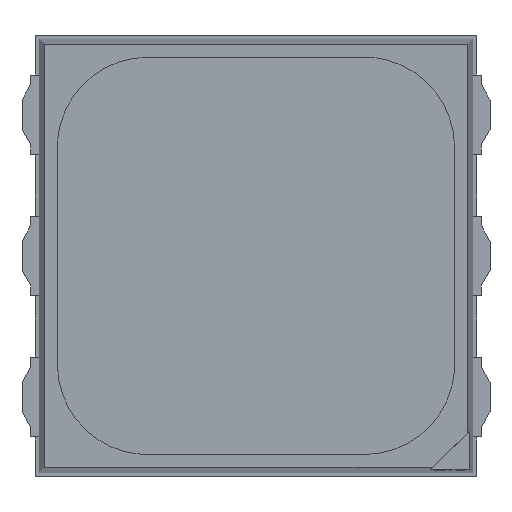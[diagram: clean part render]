
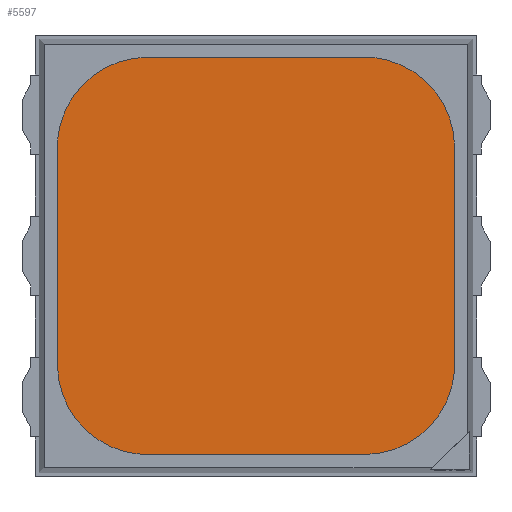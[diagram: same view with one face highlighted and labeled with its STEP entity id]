
A CAD part, top view. The second image highlights one B-rep face of the part: STEP entity #5597.
In plain terms, the highlighted planar face has unit normal (0, 0, 1).
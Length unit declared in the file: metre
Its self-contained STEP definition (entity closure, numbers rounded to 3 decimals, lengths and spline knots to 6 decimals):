
#55=B_SPLINE_CURVE_WITH_KNOTS('',3,(#7738,#7739,#7740,#7741,#7742),
 .UNSPECIFIED.,.F.,.F.,(4,1,4),(0.,0.5,1.),.UNSPECIFIED.);
#59=B_SPLINE_CURVE_WITH_KNOTS('',3,(#7782,#7783,#7784,#7785,#7786),
 .UNSPECIFIED.,.F.,.F.,(4,1,4),(0.,0.5,1.),.UNSPECIFIED.);
#63=B_SPLINE_CURVE_WITH_KNOTS('',3,(#7826,#7827,#7828,#7829,#7830),
 .UNSPECIFIED.,.F.,.F.,(4,1,4),(0.,0.5,1.),.UNSPECIFIED.);
#66=B_SPLINE_CURVE_WITH_KNOTS('',3,(#7864,#7865,#7866,#7867,#7868),
 .UNSPECIFIED.,.F.,.F.,(4,1,4),(0.,0.5,1.),.UNSPECIFIED.);
#455=ORIENTED_EDGE('',*,*,#1973,.F.);
#456=ORIENTED_EDGE('',*,*,#1977,.F.);
#457=ORIENTED_EDGE('',*,*,#1980,.F.);
#458=ORIENTED_EDGE('',*,*,#1983,.F.);
#459=ORIENTED_EDGE('',*,*,#1986,.F.);
#460=ORIENTED_EDGE('',*,*,#1989,.F.);
#461=ORIENTED_EDGE('',*,*,#1992,.F.);
#462=ORIENTED_EDGE('',*,*,#1994,.F.);
#1973=EDGE_CURVE('',#2767,#2768,#3338,.F.);
#1977=EDGE_CURVE('',#2770,#2767,#55,.F.);
#1980=EDGE_CURVE('',#2772,#2770,#3340,.F.);
#1983=EDGE_CURVE('',#2774,#2772,#59,.F.);
#1986=EDGE_CURVE('',#2776,#2774,#3342,.T.);
#1989=EDGE_CURVE('',#2778,#2776,#63,.F.);
#1992=EDGE_CURVE('',#2780,#2778,#3344,.T.);
#1994=EDGE_CURVE('',#2768,#2780,#66,.F.);
#2767=VERTEX_POINT('',#7701);
#2768=VERTEX_POINT('',#7703);
#2770=VERTEX_POINT('',#7737);
#2772=VERTEX_POINT('',#7750);
#2774=VERTEX_POINT('',#7781);
#2776=VERTEX_POINT('',#7794);
#2778=VERTEX_POINT('',#7825);
#2780=VERTEX_POINT('',#7838);
#3338=LINE('',#7702,#4054);
#3340=LINE('',#7751,#4056);
#3342=LINE('',#7795,#4058);
#3344=LINE('',#7839,#4060);
#4054=VECTOR('',#6415,1.);
#4056=VECTOR('',#6419,1.);
#4058=VECTOR('',#6423,1.);
#4060=VECTOR('',#6427,1.);
#4718=EDGE_LOOP('',(#455,#456,#457,#458,#459,#460,#461,#462));
#5028=FACE_BOUND('',#4718,.T.);
#5334=PLANE('',#6012);
#5597=ADVANCED_FACE('',(#5028),#5334,.T.);
#6012=AXIS2_PLACEMENT_3D('',#7870,#6430,#6431);
#6415=DIRECTION('',(-1.,0.,0.));
#6419=DIRECTION('',(0.,-1.,0.));
#6423=DIRECTION('',(-1.,0.,0.));
#6427=DIRECTION('',(0.,-1.,0.));
#6430=DIRECTION('',(0.,0.,1.));
#6431=DIRECTION('',(1.,0.,0.));
#7701=CARTESIAN_POINT('',(-0.00123,0.00225,0.001));
#7702=CARTESIAN_POINT('',(0.,0.00225,0.001));
#7703=CARTESIAN_POINT('',(0.00123,0.00225,0.001));
#7737=CARTESIAN_POINT('',(-0.00225,0.00123,0.001));
#7738=CARTESIAN_POINT('',(-0.00123,0.00225,0.001));
#7739=CARTESIAN_POINT('',(-0.0015,0.00225,0.001));
#7740=CARTESIAN_POINT('',(-0.002027,0.002027,0.001));
#7741=CARTESIAN_POINT('',(-0.00225,0.001501,0.001));
#7742=CARTESIAN_POINT('',(-0.00225,0.00123,0.001));
#7750=CARTESIAN_POINT('',(-0.00225,-0.00123,0.001));
#7751=CARTESIAN_POINT('',(-0.00225,0.,0.001));
#7781=CARTESIAN_POINT('',(-0.00123,-0.00225,0.001));
#7782=CARTESIAN_POINT('',(-0.00225,-0.00123,0.001));
#7783=CARTESIAN_POINT('',(-0.00225,-0.0015,0.001));
#7784=CARTESIAN_POINT('',(-0.002027,-0.002027,0.001));
#7785=CARTESIAN_POINT('',(-0.001501,-0.00225,0.001));
#7786=CARTESIAN_POINT('',(-0.00123,-0.00225,0.001));
#7794=CARTESIAN_POINT('',(0.00123,-0.00225,0.001));
#7795=CARTESIAN_POINT('',(0.,-0.00225,0.001));
#7825=CARTESIAN_POINT('',(0.00225,-0.00123,0.001));
#7826=CARTESIAN_POINT('',(0.00123,-0.00225,0.001));
#7827=CARTESIAN_POINT('',(0.0015,-0.00225,0.001));
#7828=CARTESIAN_POINT('',(0.002027,-0.002027,0.001));
#7829=CARTESIAN_POINT('',(0.00225,-0.001501,0.001));
#7830=CARTESIAN_POINT('',(0.00225,-0.00123,0.001));
#7838=CARTESIAN_POINT('',(0.00225,0.00123,0.001));
#7839=CARTESIAN_POINT('',(0.00225,0.,0.001));
#7864=CARTESIAN_POINT('',(0.00225,0.00123,0.001));
#7865=CARTESIAN_POINT('',(0.00225,0.0015,0.001));
#7866=CARTESIAN_POINT('',(0.002027,0.002027,0.001));
#7867=CARTESIAN_POINT('',(0.001501,0.00225,0.001));
#7868=CARTESIAN_POINT('',(0.00123,0.00225,0.001));
#7870=CARTESIAN_POINT('',(0.,0.,0.001));
